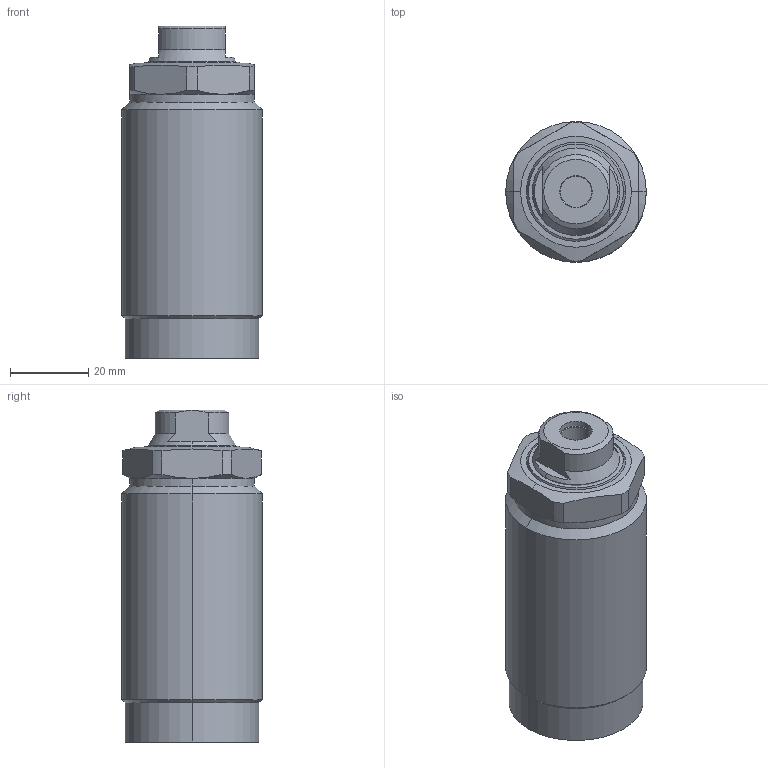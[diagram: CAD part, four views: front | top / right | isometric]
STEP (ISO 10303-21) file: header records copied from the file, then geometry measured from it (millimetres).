
FILE_DESCRIPTION((' '),'2;1');
FILE_NAME( 'TGP36-AL.x_t.stp', '2025-02-10T16:03:54', (' '), ('--- Datakit www.datakit.com---'), ' Datakit CrossCadWare V2024.1 Dec 21 2023', 'Mastercam 2025', ' ');
FILE_SCHEMA(('AUTOMOTIVE_DESIGN { 1 0 10303 214 1 1 1 1 }'));
Length unit declared in the file: millimetre
Products named in the file (1): TGP36-AL
Bounding box: 36 x 36 x 85 mm (x, y, z)
Volume: 85179.2 mm3; surface area: 14363.4 mm2
Topology: 2 solids, 2 shells, 78 faces, 195 edges, 128 vertices
Faces by surface type: cylinder 34, plane 22, cone 18, torus 4
Entity records: 2502 total; most frequent: CARTESIAN_POINT 578, DIRECTION 422, ORIENTED_EDGE 386, EDGE_CURVE 193, AXIS2_PLACEMENT_3D 180, VERTEX_POINT 128, CIRCLE 101, EDGE_LOOP 87
